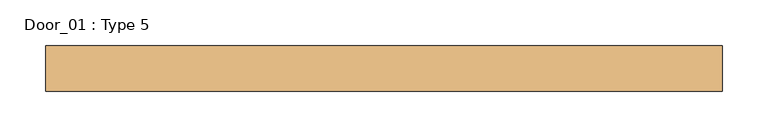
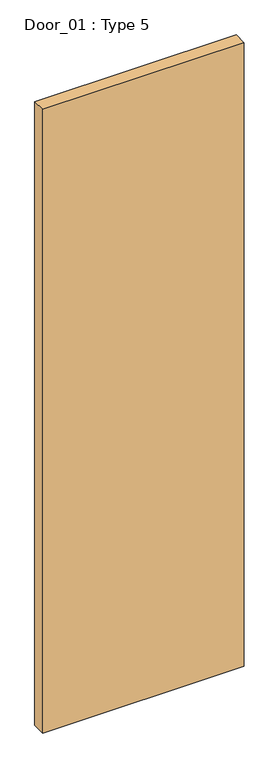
"""IFC4 building model written with IfcOpenShell, lengths in millimetres: door geometry, Door_01 : Type 5."""

from ifc_helpers import new_model, si_unit, origin, origin_with_axes, place, context, project, spatial, polyline, outline, extrude, source, transform, mapped, element, save


def door_01_type_5_4e000384(model_context):
    return source(origin(), model_context, "Body", "SweptSolid", [
        extrude(outline(polyline([(370.0, -25.0), (-370.0, -25.0), (-370.0, 25.0), (370.0, 25.0), (370.0, -25.0)])), origin_with_axes(), (0.0, 0.0, 1.0), 2420.0),
    ])


if __name__ == "__main__":
    model = new_model("IFC4")
    model_context = context("Model", 3, world=origin())
    ifc_project = project(units=[si_unit("LENGTHUNIT", "METRE", prefix="MILLI")], contexts=[model_context])
    site = spatial("IfcSite", under=ifc_project)
    building = spatial("IfcBuilding", under=site)
    placement = place(None, origin())
    door_01_type_5_shape = door_01_type_5_4e000384(model_context)
    element("IfcDoor", 1, ObjectType="Door_01 : Type 5", at=placement, inside=building, context=model_context, shape_type="MappedRepresentation", body=[
        mapped(door_01_type_5_shape, transform((0.0, 0.0, 0.0), x_axis=(1.0, 0.0, 0.0), y_axis=(0.0, 1.0, 0.0), z_axis=(0.0, 0.0, 1.0))),
    ])
    save(model, "model.ifc")
